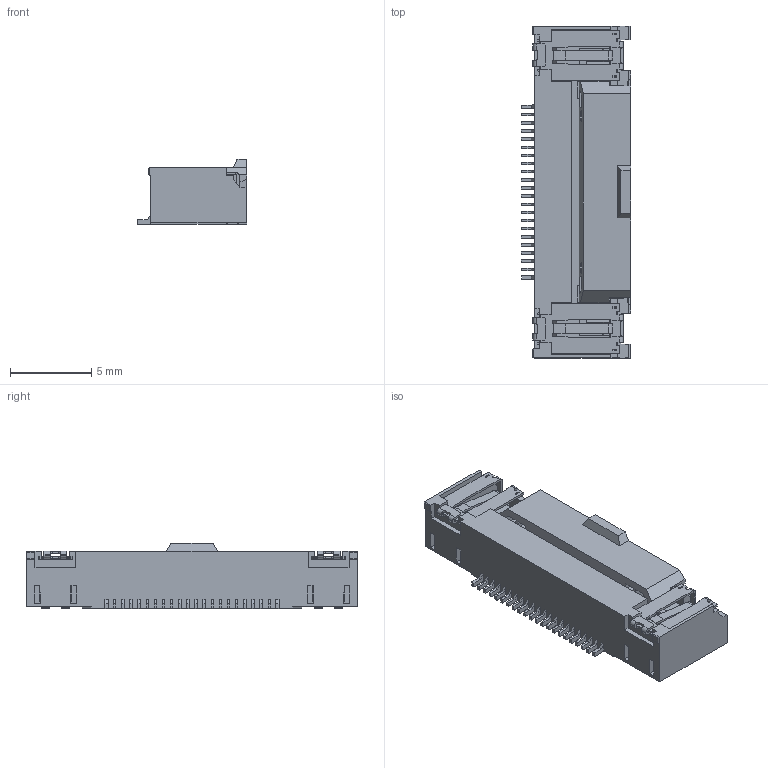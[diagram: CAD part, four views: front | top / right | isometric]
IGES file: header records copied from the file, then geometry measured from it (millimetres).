
Start section: SolidWorks IGES file using analytic representation for surfaces
Global section: file name: N:\Koyama_Utaya\★三次元モデル作成依頼\6810\001 TYPE_NEW_GND有り\006810620001.IGS; native system: SolidWorks 2021; preprocessor: SolidWorks 2021; author: SW-CPD03; date: 220615.165505; units: millimetre
Bounding box: 6.7 x 20.4 x 4.04 mm (x, y, z)
Surface area: 926.7 mm2 (no closed solid volume)
Topology: 0 solids, 0 shells, 1055 faces, 6678 edges, 6678 vertices
Faces by surface type: bspline 781, revolution 274
